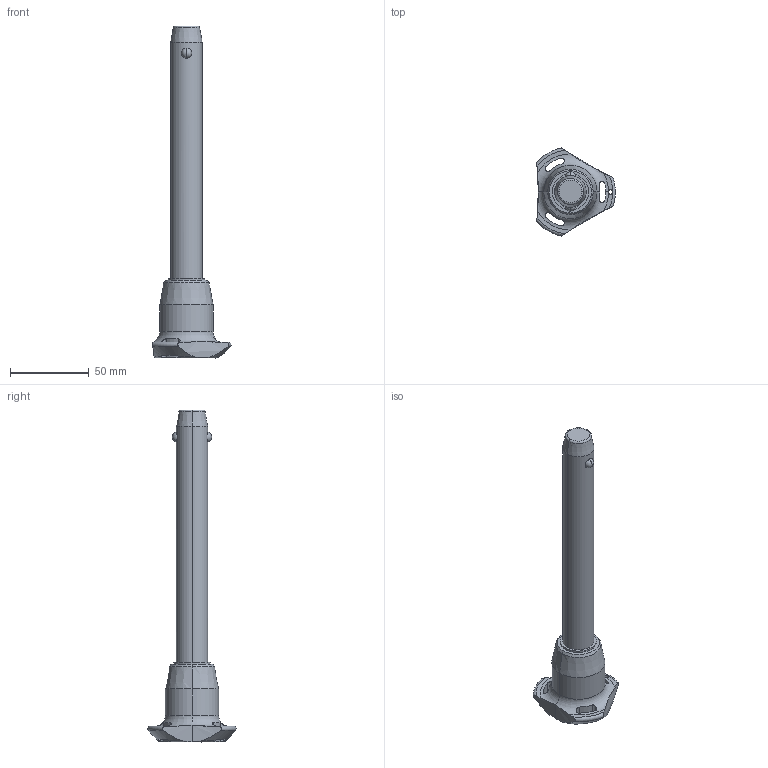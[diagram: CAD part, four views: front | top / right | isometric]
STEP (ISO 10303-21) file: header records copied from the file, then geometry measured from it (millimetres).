
FILE_DESCRIPTION (( 'STEP AP203' ), '1' );
FILE_NAME ('QR1704.M20-140-S.step', '2025-11-12T09:37:03', ( '' ), ( '' ), 'SwSTEP 2.0', 'SolidWorks 2019', '' );
FILE_SCHEMA (( 'CONFIG_CONTROL_DESIGN' ));
Length unit declared in the file: millimetre
Products named in the file (1): QR1704.M20-140-S
Bounding box: 50.05 x 56.02 x 211.2 mm (x, y, z)
Volume: 97759.3 mm3; surface area: 19763.7 mm2
Topology: 1 solids, 1 shells, 65 faces, 176 edges, 111 vertices
Faces by surface type: cylinder 30, cone 14, torus 11, sphere 6, plane 4
Entity records: 2858 total; most frequent: CARTESIAN_POINT 1179, ORIENTED_EDGE 352, DIRECTION 329, EDGE_CURVE 176, AXIS2_PLACEMENT_3D 147, VERTEX_POINT 111, CIRCLE 81, EDGE_LOOP 71
